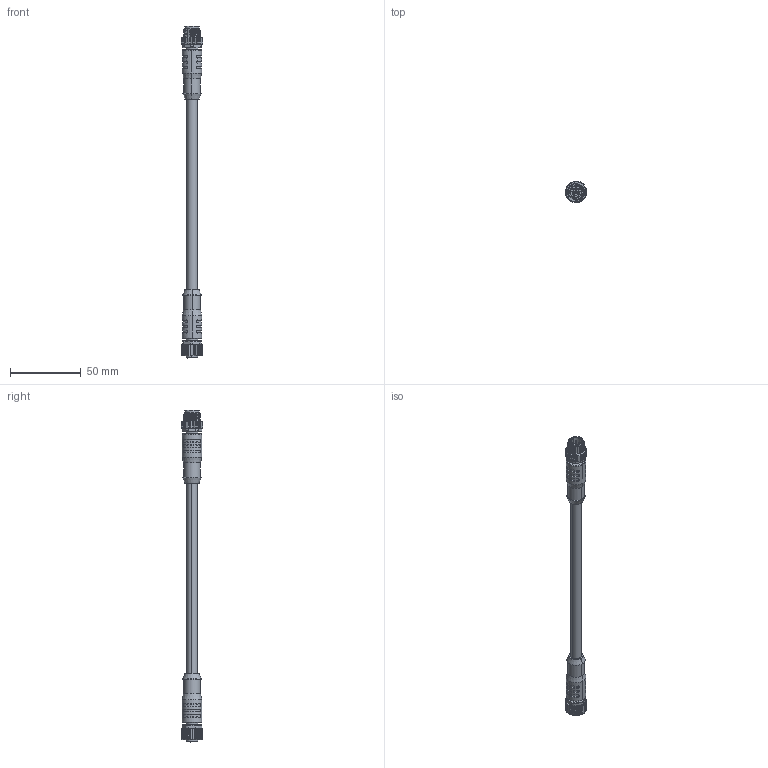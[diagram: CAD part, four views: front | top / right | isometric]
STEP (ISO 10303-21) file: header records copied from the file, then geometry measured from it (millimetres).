
FILE_DESCRIPTION (( 'STEP AP203' ), '1' );
FILE_NAME ('0C4281-XXX.STEP', '2024-12-02T08:31:22', ( 'L' ), ( '' ), 'SwSTEP 2.0', 'SolidWorks 2019', '' );
FILE_SCHEMA (( 'CONFIG_CONTROL_DESIGN' ));
Length unit declared in the file: millimetre
Products named in the file (1): 0C4281-XXX
Bounding box: 14.99 x 15 x 235.16 mm (x, y, z)
Volume: 18061.2 mm3; surface area: 10897.7 mm2
Topology: 1 solids, 1 shells, 1116 faces, 3106 edges, 2057 vertices
Faces by surface type: plane 555, cylinder 300, cone 119, bspline 114, torus 28
Entity records: 55856 total; most frequent: CARTESIAN_POINT 29138, ORIENTED_EDGE 6212, DIRECTION 4590, EDGE_CURVE 3106, VERTEX_POINT 2057, AXIS2_PLACEMENT_3D 1582, LINE 1426, VECTOR 1426
